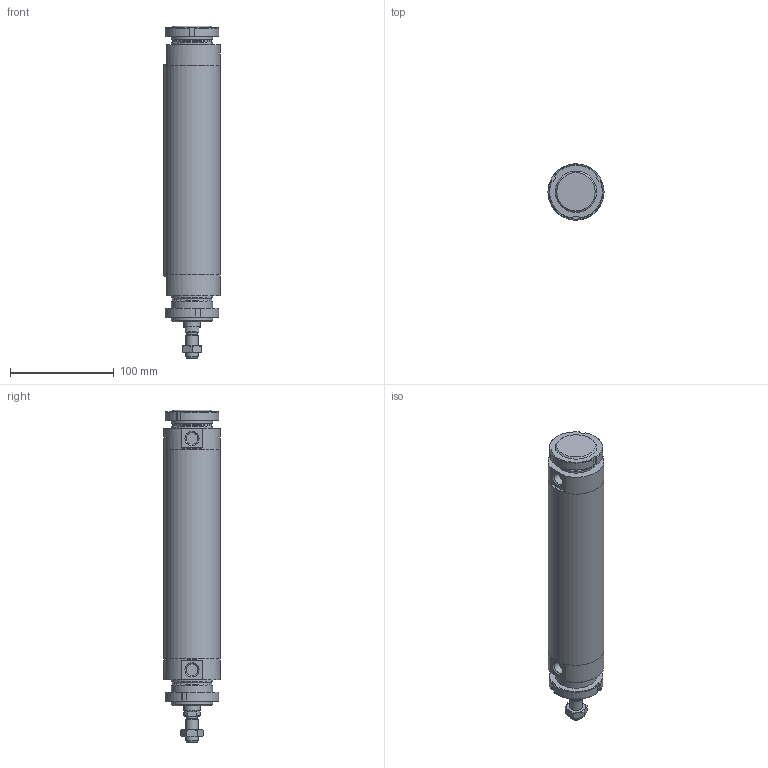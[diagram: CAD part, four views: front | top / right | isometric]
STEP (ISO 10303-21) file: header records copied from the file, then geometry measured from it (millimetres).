
FILE_DESCRIPTION(/* description */ (''),/* implementation_level */ '2;1');
FILE_NAME(/* name */ 'I:\Area Tecnica\Documenti\A-Manieri\_Inventor\12X\12X#C_###_####_#_#\12XAC_050_0160_#_#.stp',/* time_stamp */ '2015-04-28T15:19:55+02:00',/* author */ ('maniean1'),/* organization */ ('Pneumax S.p.A.'),/* preprocessor_version */ 'ST-DEVELOPER v15.2',/* originating_system */ 'Autodesk Inventor 2014',/* authorisation */ '');
FILE_SCHEMA (('AUTOMOTIVE_DESIGN { 1 0 10303 214 3 1 1 }'));
Length unit declared in the file: millimetre
Products named in the file (7): C1250_619-0160; 12X50_604; S12X50_0160; 12X_50_11; 12X50_620; G12X_050_05; 12XAC_050_0160_#_#
Bounding box: 54 x 54 x 320 mm (x, y, z)
Volume: 345867.9 mm3; surface area: 122025.3 mm2
Topology: 7 solids, 7 shells, 106 faces, 240 edges, 154 vertices
Faces by surface type: plane 52, cylinder 27, cone 27
Full cylindrical faces by diameter (mm): 10.2 x1, 11.4 x2, 12 x2, 14 x1, 15.6 x1, 16 x1, 38.2 x2, 40 x6, 50 x2, 54 x3
Entity records: 2243 total; most frequent: CARTESIAN_POINT 413, DIRECTION 382, ORIENTED_EDGE 292, AXIS2_PLACEMENT_3D 165, EDGE_CURVE 146, EDGE_LOOP 132, VERTEX_POINT 112, ADVANCED_FACE 85
